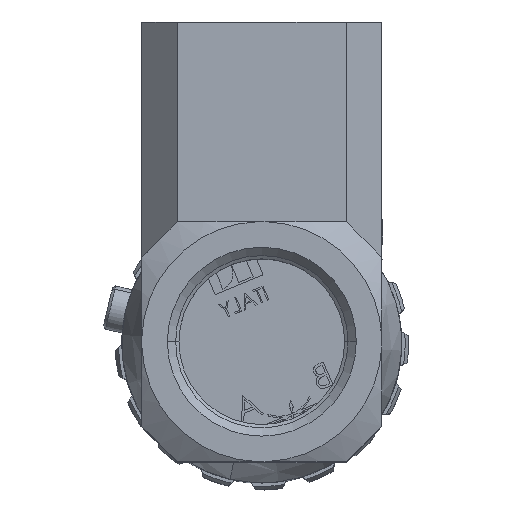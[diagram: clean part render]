
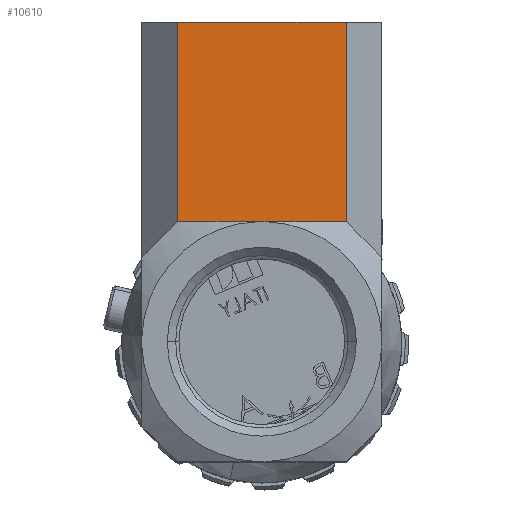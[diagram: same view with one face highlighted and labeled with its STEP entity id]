
A CAD part, top view. The second image highlights one B-rep face of the part: STEP entity #10610.
In plain terms, the highlighted planar face has unit normal (0, 0, 1).
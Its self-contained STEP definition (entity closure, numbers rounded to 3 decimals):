
#241 = LINE ( 'NONE', #6705, #5996 ) ;
#2664 = ORIENTED_EDGE ( 'NONE', *, *, #16490, .T. ) ;
#3673 = DIRECTION ( 'NONE',  ( 0., 0., -1. ) ) ;
#3958 = ORIENTED_EDGE ( 'NONE', *, *, #10890, .T. ) ;
#3969 = DIRECTION ( 'NONE',  ( 1., 0., 0. ) ) ;
#4430 = CARTESIAN_POINT ( 'NONE',  ( 9.5, 13.5, 5. ) ) ;
#4747 = DIRECTION ( 'NONE',  ( 0., 1., 0. ) ) ;
#5682 = CARTESIAN_POINT ( 'NONE',  ( -9.5, 13.5, 5. ) ) ;
#5996 = VECTOR ( 'NONE', #23943, 1000. ) ;
#6653 = VERTEX_POINT ( 'NONE', #5682 ) ;
#6705 = CARTESIAN_POINT ( 'NONE',  ( -9.5, 36., 5. ) ) ;
#10121 = FACE_OUTER_BOUND ( 'NONE', #12675, .T. ) ;
#10610 = ADVANCED_FACE ( 'NONE', ( #10121 ), #23237, .F. ) ;
#10890 = EDGE_CURVE ( 'NONE', #24096, #20018, #13541, .T. ) ;
#11140 = VECTOR ( 'NONE', #3969, 1000. ) ;
#11947 = LINE ( 'NONE', #16245, #11140 ) ;
#12675 = EDGE_LOOP ( 'NONE', ( #14661, #2664, #15700, #3958 ) ) ;
#13541 = LINE ( 'NONE', #19441, #26627 ) ;
#14661 = ORIENTED_EDGE ( 'NONE', *, *, #29033, .F. ) ;
#15236 = CARTESIAN_POINT ( 'NONE',  ( 9.5, 35.995, 5. ) ) ;
#15700 = ORIENTED_EDGE ( 'NONE', *, *, #25996, .T. ) ;
#16012 = LINE ( 'NONE', #25439, #21770 ) ;
#16245 = CARTESIAN_POINT ( 'NONE',  ( -13.5, 35.995, 5. ) ) ;
#16490 = EDGE_CURVE ( 'NONE', #30005, #6653, #241, .T. ) ;
#18405 = CARTESIAN_POINT ( 'NONE',  ( -13.5, 36., 5. ) ) ;
#19441 = CARTESIAN_POINT ( 'NONE',  ( 9.5, 36., 5. ) ) ;
#20018 = VERTEX_POINT ( 'NONE', #15236 ) ;
#20841 = DIRECTION ( 'NONE',  ( -1., 0., 0. ) ) ;
#21770 = VECTOR ( 'NONE', #22966, 1000. ) ;
#22966 = DIRECTION ( 'NONE',  ( 1., 0., 0. ) ) ;
#23237 = PLANE ( 'NONE',  #23699 ) ;
#23699 = AXIS2_PLACEMENT_3D ( 'NONE', #18405, #3673, #20841 ) ;
#23943 = DIRECTION ( 'NONE',  ( 0., -1., 0. ) ) ;
#24096 = VERTEX_POINT ( 'NONE', #4430 ) ;
#25302 = CARTESIAN_POINT ( 'NONE',  ( -9.5, 35.995, 5. ) ) ;
#25439 = CARTESIAN_POINT ( 'NONE',  ( -13.5, 13.5, 5. ) ) ;
#25996 = EDGE_CURVE ( 'NONE', #6653, #24096, #16012, .T. ) ;
#26627 = VECTOR ( 'NONE', #4747, 1000. ) ;
#29033 = EDGE_CURVE ( 'NONE', #30005, #20018, #11947, .T. ) ;
#30005 = VERTEX_POINT ( 'NONE', #25302 ) ;
